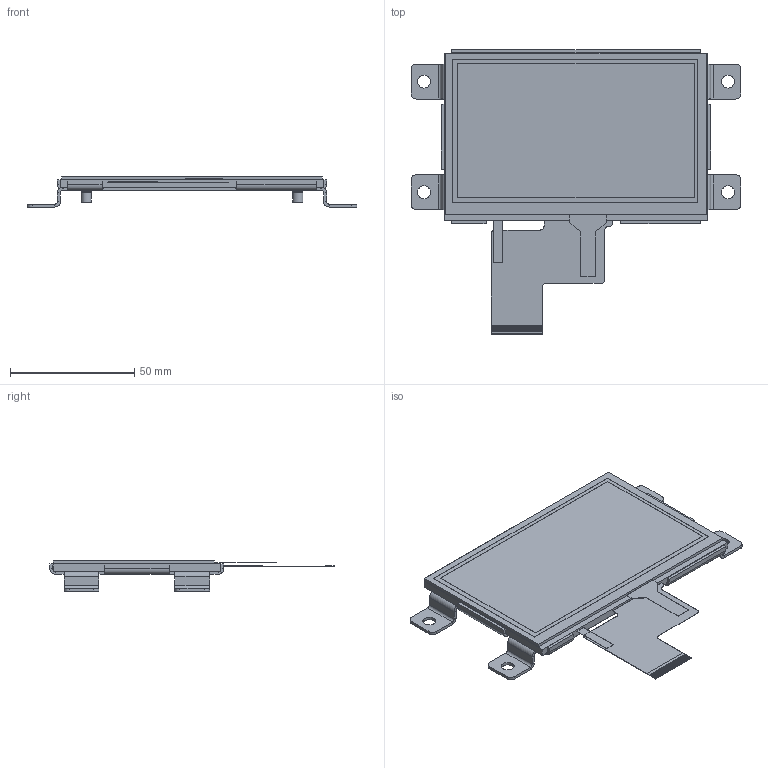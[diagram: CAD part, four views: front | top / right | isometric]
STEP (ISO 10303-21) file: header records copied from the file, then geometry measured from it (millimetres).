
FILE_DESCRIPTION (( 'STEP AP214' ), '1' );
FILE_NAME ('NHD-4.3-480272MB-ATXL-T.STEP', '2017-12-06T15:29:04', ( '' ), ( '' ), 'SwSTEP 2.0', 'SolidWorks 2017', '' );
FILE_SCHEMA (( 'AUTOMOTIVE_DESIGN' ));
Length unit declared in the file: millimetre
Products named in the file (4): BSO4-M3-6; NHD-4.3-B; NHD-4.3-480272MB-ATXL-T; NHD-4.3-480272EF-T
Assembly tree (6 placements, depth 2):
  NHD-4.3-480272MB-ATXL-T
    NHD-4.3-B
    BSO4-M3-6  x4
    NHD-4.3-480272EF-T
Bounding box: 132.58 x 114.22 x 12.11 mm (x, y, z)
Volume: 40267.1 mm3; surface area: 48047.3 mm2
Topology: 7 solids, 7 shells, 502 faces, 1284 edges, 814 vertices
Faces by surface type: plane 380, cylinder 106, cone 16
Entity records: 15057 total; most frequent: CARTESIAN_POINT 2205, ORIENTED_EDGE 2180, DIRECTION 2083, EDGE_CURVE 1090, LINE 945, VECTOR 945, VERTEX_POINT 691, AXIS2_PLACEMENT_3D 569
